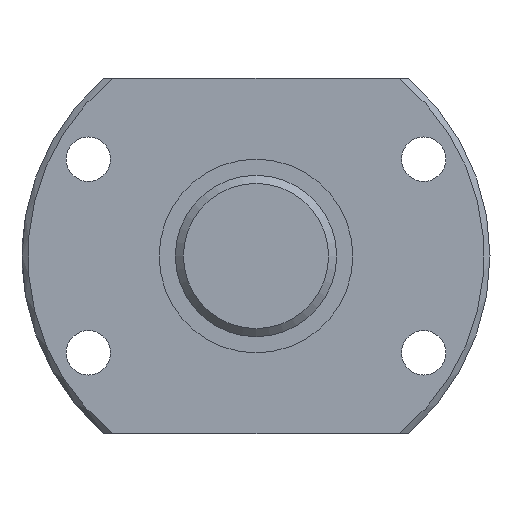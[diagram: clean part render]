
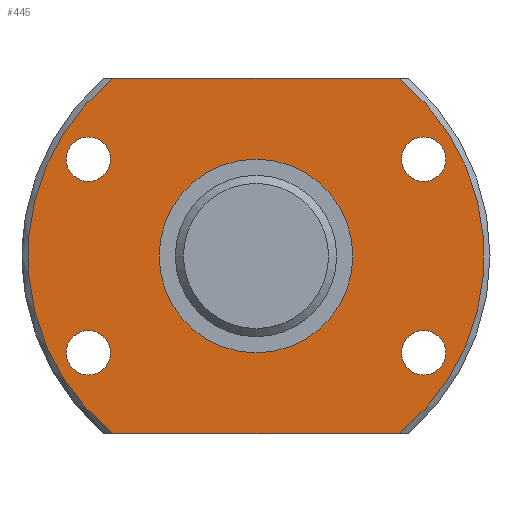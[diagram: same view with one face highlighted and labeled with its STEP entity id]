
A CAD part, left-side view. The second image highlights one B-rep face of the part: STEP entity #445.
In plain terms, the highlighted planar face has unit normal (-1, 0, 0).
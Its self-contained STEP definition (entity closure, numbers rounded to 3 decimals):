
#32=LINE('',#786,#40);
#33=LINE('',#790,#41);
#40=VECTOR('',#613,1000.);
#41=VECTOR('',#616,1000.);
#66=PLANE('',#515);
#102=ORIENTED_EDGE('',*,*,#196,.T.);
#103=ORIENTED_EDGE('',*,*,#197,.F.);
#104=ORIENTED_EDGE('',*,*,#198,.F.);
#105=ORIENTED_EDGE('',*,*,#199,.F.);
#106=ORIENTED_EDGE('',*,*,#186,.F.);
#107=ORIENTED_EDGE('',*,*,#200,.T.);
#108=ORIENTED_EDGE('',*,*,#201,.T.);
#109=ORIENTED_EDGE('',*,*,#202,.T.);
#110=ORIENTED_EDGE('',*,*,#203,.T.);
#186=EDGE_CURVE('',#234,#235,#273,.T.);
#196=EDGE_CURVE('',#244,#244,#278,.T.);
#197=EDGE_CURVE('',#245,#234,#32,.T.);
#198=EDGE_CURVE('',#246,#245,#279,.T.);
#199=EDGE_CURVE('',#235,#246,#33,.T.);
#200=EDGE_CURVE('',#247,#247,#280,.T.);
#201=EDGE_CURVE('',#248,#248,#281,.T.);
#202=EDGE_CURVE('',#249,#249,#282,.T.);
#203=EDGE_CURVE('',#250,#250,#283,.T.);
#234=VERTEX_POINT('',#738);
#235=VERTEX_POINT('',#740);
#244=VERTEX_POINT('',#785);
#245=VERTEX_POINT('',#787);
#246=VERTEX_POINT('',#789);
#247=VERTEX_POINT('',#792);
#248=VERTEX_POINT('',#794);
#249=VERTEX_POINT('',#796);
#250=VERTEX_POINT('',#798);
#273=CIRCLE('',#508,56.55);
#278=CIRCLE('',#516,24.);
#279=CIRCLE('',#517,56.55);
#280=CIRCLE('',#518,5.5);
#281=CIRCLE('',#519,5.5);
#282=CIRCLE('',#520,5.5);
#283=CIRCLE('',#521,5.5);
#314=EDGE_LOOP('',(#102));
#315=EDGE_LOOP('',(#103,#104,#105,#106));
#316=EDGE_LOOP('',(#107));
#317=EDGE_LOOP('',(#108));
#318=EDGE_LOOP('',(#109));
#319=EDGE_LOOP('',(#110));
#376=FACE_BOUND('',#314,.T.);
#377=FACE_BOUND('',#315,.T.);
#378=FACE_BOUND('',#316,.T.);
#379=FACE_BOUND('',#317,.T.);
#380=FACE_BOUND('',#318,.T.);
#381=FACE_BOUND('',#319,.T.);
#445=ADVANCED_FACE('',(#376,#377,#378,#379,#380,#381),#66,.T.);
#508=AXIS2_PLACEMENT_3D('',#739,#593,#594);
#515=AXIS2_PLACEMENT_3D('',#783,#609,#610);
#516=AXIS2_PLACEMENT_3D('',#784,#611,#612);
#517=AXIS2_PLACEMENT_3D('',#788,#614,#615);
#518=AXIS2_PLACEMENT_3D('',#791,#617,#618);
#519=AXIS2_PLACEMENT_3D('',#793,#619,#620);
#520=AXIS2_PLACEMENT_3D('',#795,#621,#622);
#521=AXIS2_PLACEMENT_3D('',#797,#623,#624);
#593=DIRECTION('',(1.,0.,0.));
#594=DIRECTION('',(0.,0.,-1.));
#609=DIRECTION('',(-1.,0.,0.));
#610=DIRECTION('',(0.,0.,1.));
#611=DIRECTION('',(1.,0.,0.));
#612=DIRECTION('',(0.,0.,-1.));
#613=DIRECTION('',(0.,-1.,0.));
#614=DIRECTION('',(1.,0.,0.));
#615=DIRECTION('',(0.,0.,-1.));
#616=DIRECTION('',(0.,1.,0.));
#617=DIRECTION('',(1.,0.,0.));
#618=DIRECTION('',(0.,0.,-1.));
#619=DIRECTION('',(1.,0.,0.));
#620=DIRECTION('',(0.,0.,-1.));
#621=DIRECTION('',(1.,0.,0.));
#622=DIRECTION('',(0.,0.,-1.));
#623=DIRECTION('',(1.,0.,0.));
#624=DIRECTION('',(0.,0.,-1.));
#738=CARTESIAN_POINT('',(0.,-35.523,44.));
#739=CARTESIAN_POINT('',(0.,0.,0.));
#740=CARTESIAN_POINT('',(0.,-35.523,-44.));
#783=CARTESIAN_POINT('',(0.,56.55,0.));
#784=CARTESIAN_POINT('',(0.,0.,0.));
#785=CARTESIAN_POINT('',(0.,0.,-24.));
#786=CARTESIAN_POINT('',(0.,58.1,44.));
#787=CARTESIAN_POINT('',(0.,35.523,44.));
#788=CARTESIAN_POINT('',(0.,0.,0.));
#789=CARTESIAN_POINT('',(0.,35.523,-44.));
#790=CARTESIAN_POINT('',(0.,-58.1,-44.));
#791=CARTESIAN_POINT('',(0.,-41.569,24.));
#792=CARTESIAN_POINT('',(0.,-41.569,18.5));
#793=CARTESIAN_POINT('',(0.,-41.569,-24.));
#794=CARTESIAN_POINT('',(0.,-41.569,-29.5));
#795=CARTESIAN_POINT('',(0.,41.569,-24.));
#796=CARTESIAN_POINT('',(0.,41.569,-29.5));
#797=CARTESIAN_POINT('',(0.,41.569,24.));
#798=CARTESIAN_POINT('',(0.,41.569,18.5));
